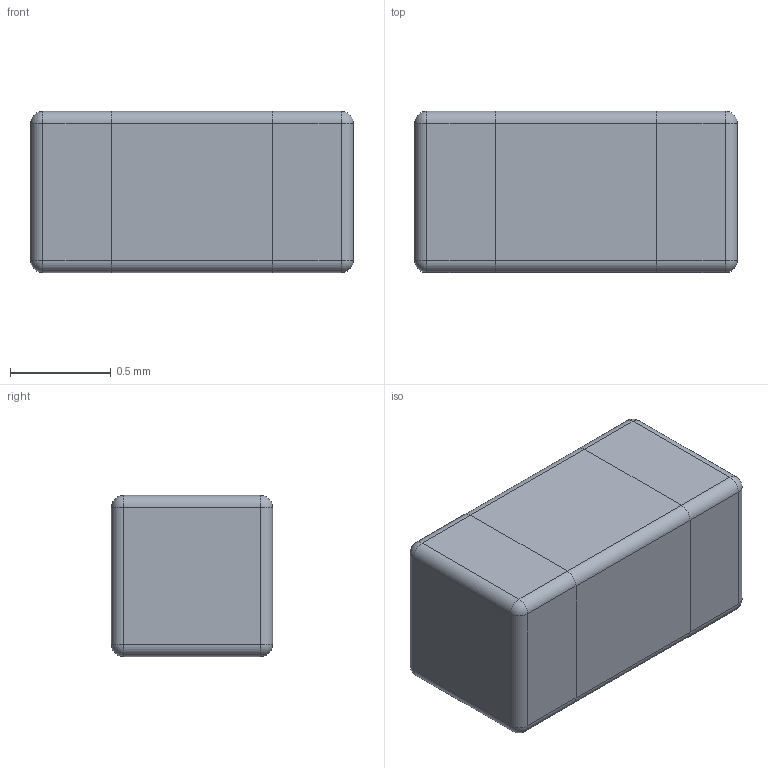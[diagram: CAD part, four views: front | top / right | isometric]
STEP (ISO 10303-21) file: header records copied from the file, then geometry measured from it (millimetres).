
FILE_DESCRIPTION(('FreeCAD Model'),'2;1');
FILE_NAME('Open CASCADE Shape Model','2022-02-08T11:02:13',(''),(''), 'Open CASCADE STEP processor 7.5','FreeCAD','Unknown');
FILE_SCHEMA(('AUTOMOTIVE_DESIGN { 1 0 10303 214 1 1 1 1 }'));
Length unit declared in the file: millimetre
Products named in the file (1): Fillet
Bounding box: 1.6 x 0.8 x 0.8 mm (x, y, z)
Volume: 1 mm3; surface area: 6.1 mm2
Topology: 1 solids, 1 shells, 42 faces, 88 edges, 40 vertices
Faces by surface type: cylinder 20, plane 14, sphere 8
Entity records: 2326 total; most frequent: CARTESIAN_POINT 371, DIRECTION 310, ORIENTED_EDGE 160, LINE 160, VECTOR 160, PCURVE 160, DEFINITIONAL_REPRESENTATION 160, EDGE_CURVE 80
